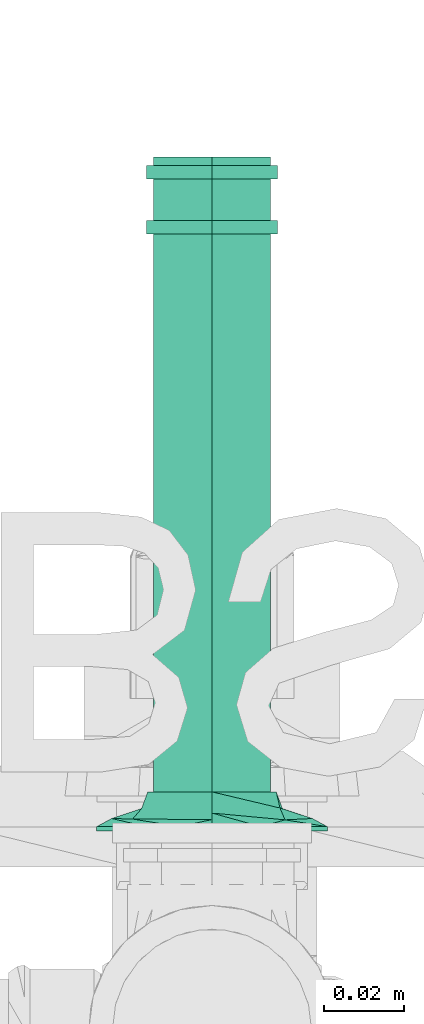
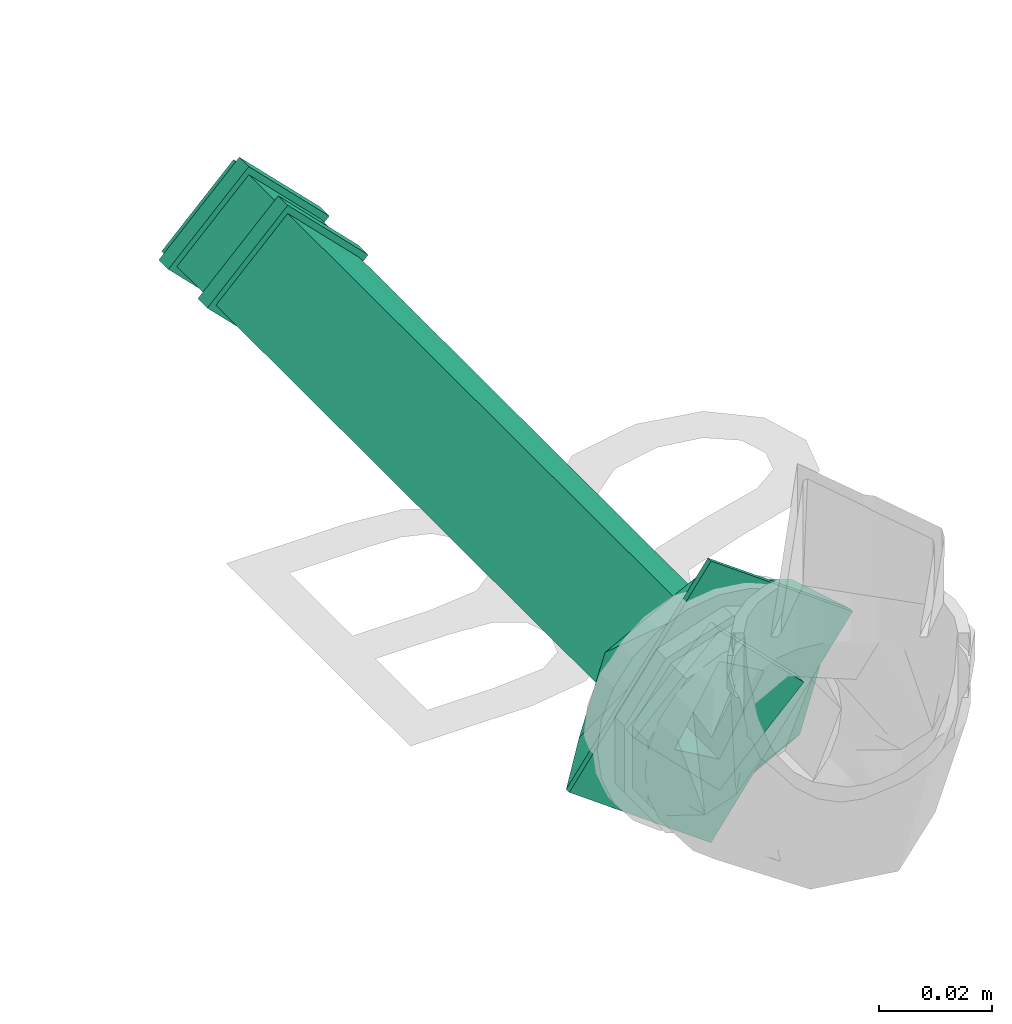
# One storey, part 204 of 589: 1 flow fitting.
"""IFC2X3 building model written with IfcOpenShell, lengths in millimetres."""

from ifc_helpers import new_model, entity, si_unit, converted_unit, derived_unit, direction, frame, origin, place, context, subcontext, project, spatial, faceted_brep, source, transform, mapped, material, type_object, type_shapes, element, save


model = new_model("IFC2X3")

# Units and contexts
model_context = context("Model", 3, precision=0.01, world=origin(), true_north=direction((6.123031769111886e-17, 1.0)))
body_context = subcontext(model_context, "Body", "Model", "MODEL_VIEW")
ifc_project = project(units=[si_unit("LENGTHUNIT", "METRE", prefix="MILLI"), si_unit("AREAUNIT", "SQUARE_METRE"), si_unit("VOLUMEUNIT", "CUBIC_METRE"), converted_unit("PLANEANGLEUNIT", "DEGREE", entity("IfcRatioMeasure", 0.017453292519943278), si_unit("PLANEANGLEUNIT", "RADIAN"), dimensions=[0, 0, 0, 0, 0, 0, 0]), si_unit("MASSUNIT", "GRAM", prefix="KILO"), derived_unit("MASSDENSITYUNIT", [(si_unit("MASSUNIT", "GRAM", prefix="KILO"), 1), (si_unit("LENGTHUNIT", "METRE"), -3)]), derived_unit("IONCONCENTRATIONUNIT", [(si_unit("MASSUNIT", "GRAM", prefix="KILO"), 1), (si_unit("LENGTHUNIT", "METRE"), -3)]), derived_unit("MOMENTOFINERTIAUNIT", [(si_unit("LENGTHUNIT", "METRE"), 4)]), si_unit("TIMEUNIT", "SECOND"), si_unit("FREQUENCYUNIT", "HERTZ"), si_unit("THERMODYNAMICTEMPERATUREUNIT", "DEGREE_CELSIUS"), derived_unit("THERMALTRANSMITTANCEUNIT", [(si_unit("MASSUNIT", "GRAM", prefix="KILO"), 1), (si_unit("THERMODYNAMICTEMPERATUREUNIT", "KELVIN"), -1), (si_unit("TIMEUNIT", "SECOND"), -3)]), derived_unit("THERMALCONDUCTANCEUNIT", [(si_unit("MASSUNIT", "GRAM", prefix="KILO"), 1), (si_unit("THERMODYNAMICTEMPERATUREUNIT", "KELVIN"), -1), (si_unit("TIMEUNIT", "SECOND"), -3), (si_unit("LENGTHUNIT", "METRE"), 1)]), derived_unit("VOLUMETRICFLOWRATEUNIT", [(si_unit("LENGTHUNIT", "METRE"), 3), (si_unit("TIMEUNIT", "SECOND"), -1)]), derived_unit("MASSFLOWRATEUNIT", [(si_unit("MASSUNIT", "GRAM", prefix="KILO"), 1), (si_unit("TIMEUNIT", "SECOND"), -1)]), derived_unit("ROTATIONALFREQUENCYUNIT", [(si_unit("TIMEUNIT", "SECOND"), -1)]), si_unit("ELECTRICCURRENTUNIT", "AMPERE"), si_unit("ELECTRICVOLTAGEUNIT", "VOLT"), si_unit("POWERUNIT", "WATT"), si_unit("FORCEUNIT", "NEWTON", prefix="KILO"), si_unit("ILLUMINANCEUNIT", "LUX"), si_unit("LUMINOUSFLUXUNIT", "LUMEN"), si_unit("LUMINOUSINTENSITYUNIT", "CANDELA"), derived_unit("USERDEFINED", [(si_unit("MASSUNIT", "GRAM", prefix="KILO"), -1), (si_unit("LENGTHUNIT", "METRE"), -2), (si_unit("TIMEUNIT", "SECOND"), 3), (si_unit("LUMINOUSFLUXUNIT", "LUMEN"), 1)]), derived_unit("USERDEFINED", [(si_unit("MASSUNIT", "GRAM", prefix="KILO"), 1), (si_unit("TIMEUNIT", "SECOND"), -3), (si_unit("LENGTHUNIT", "METRE"), 3), (si_unit("ELECTRICCURRENTUNIT", "AMPERE"), -2)]), derived_unit("SOUNDPOWERUNIT", [(si_unit("MASSUNIT", "GRAM", prefix="KILO"), 1), (si_unit("TIMEUNIT", "SECOND"), -3), (si_unit("LENGTHUNIT", "METRE"), 2)]), derived_unit("SOUNDPRESSUREUNIT", [(si_unit("MASSUNIT", "GRAM", prefix="KILO"), 1), (si_unit("LENGTHUNIT", "METRE"), -1), (si_unit("TIMEUNIT", "SECOND"), -2)]), derived_unit("LINEARVELOCITYUNIT", [(si_unit("LENGTHUNIT", "METRE"), 1), (si_unit("TIMEUNIT", "SECOND"), -1)]), si_unit("PRESSUREUNIT", "PASCAL"), derived_unit("USERDEFINED", [(si_unit("MASSUNIT", "GRAM", prefix="KILO"), 1), (si_unit("LENGTHUNIT", "METRE"), -2), (si_unit("TIMEUNIT", "SECOND"), -2)]), derived_unit("LINEARFORCEUNIT", [(si_unit("MASSUNIT", "GRAM", prefix="KILO"), 1), (si_unit("TIMEUNIT", "SECOND"), -2)]), derived_unit("PLANARFORCEUNIT", [(si_unit("MASSUNIT", "GRAM", prefix="KILO"), 1), (si_unit("LENGTHUNIT", "METRE"), -1), (si_unit("TIMEUNIT", "SECOND"), -2)]), derived_unit("SPECIFICHEATCAPACITYUNIT", [(si_unit("THERMODYNAMICTEMPERATUREUNIT", "KELVIN"), -1), (si_unit("LENGTHUNIT", "METRE"), 2), (si_unit("TIMEUNIT", "SECOND"), -2)]), derived_unit("HEATINGVALUEUNIT", [(si_unit("LENGTHUNIT", "METRE"), 2), (si_unit("TIMEUNIT", "SECOND"), -2)]), derived_unit("VAPORPERMEABILITYUNIT", [(si_unit("LENGTHUNIT", "METRE"), -1), (si_unit("TIMEUNIT", "SECOND"), 1)]), derived_unit("DYNAMICVISCOSITYUNIT", [(si_unit("MASSUNIT", "GRAM", prefix="KILO"), 1), (si_unit("TIMEUNIT", "SECOND"), -1), (si_unit("LENGTHUNIT", "METRE"), -1)]), derived_unit("THERMALEXPANSIONCOEFFICIENTUNIT", [(si_unit("THERMODYNAMICTEMPERATUREUNIT", "KELVIN"), -1)]), derived_unit("MODULUSOFELASTICITYUNIT", [(si_unit("MASSUNIT", "GRAM", prefix="KILO"), 1), (si_unit("LENGTHUNIT", "METRE"), -1), (si_unit("TIMEUNIT", "SECOND"), -2)]), derived_unit("ISOTHERMALMOISTURECAPACITYUNIT", [(si_unit("LENGTHUNIT", "METRE"), 3), (si_unit("MASSUNIT", "GRAM", prefix="KILO"), -1)]), derived_unit("MOISTUREDIFFUSIVITYUNIT", [(si_unit("TIMEUNIT", "SECOND"), -1), (si_unit("LENGTHUNIT", "METRE"), 2)])], contexts=[model_context])

# Site, building, storey
site_placement = place(None, origin())
site = spatial("IfcSite", under=ifc_project, at=site_placement, Name="Default", CompositionType="ELEMENT")
building_placement = place(site_placement, origin())
building = spatial("IfcBuilding", under=site, at=building_placement, CompositionType="ELEMENT")
storey_placement = place(building_placement, frame((0.0, 0.0, 100.0)))
storey = spatial("IfcBuildingStorey", under=building, at=storey_placement, Name="TÉRREO", CompositionType="ELEMENT", Elevation=100.0)

# Flow fitting
ifc_material = material(Name="Cromada")
pipe_fitting_type = type_object("IfcPipeFittingType", Name="Tubo de Ligação Inox com anel para vaso sanitário 25cm:Tubo de Ligação Inox com anel para vaso sanitário 25cm", PredefinedType="NOTDEFINED", material=ifc_material)
shared_shape = source(origin(), body_context, "Body", "Brep", [
    faceted_brep([(169.50429906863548, 32.118882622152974, 13.280359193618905), (169.50429906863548, 40.79117842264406, 21.95265499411), (169.50429906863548, 49.46347422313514, 30.624950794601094), (172.4480370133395, 49.46347422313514, 30.624950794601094), (172.4480370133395, 37.891441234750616, 19.052917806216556), (172.4480370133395, 32.118882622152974, 13.280359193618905), (169.50429906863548, 23.446586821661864, 21.95265499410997), (172.4480370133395, 23.446586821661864, 21.95265499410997), (172.4480370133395, 14.774291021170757, 30.624950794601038), (169.50429906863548, 14.774291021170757, 30.624950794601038), (169.50429906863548, 32.11888262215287, 47.96954239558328), (169.50429906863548, 23.44658682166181, 39.297246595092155), (172.4480370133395, 26.346323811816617, 42.196983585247), (172.4480370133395, 32.11888262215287, 47.96954239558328), (169.50429906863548, 40.791178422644, 39.29724659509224), (172.4480370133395, 40.791178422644, 39.29724659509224), (169.50429906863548, 1.5952722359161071, 30.62495079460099), (169.50429906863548, 5.781758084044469, 27.583290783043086), (169.50429906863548, 4.910115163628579, 35.18744066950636), (169.50429906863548, 11.584253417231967, 23.367531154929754), (169.50429906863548, 16.578744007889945, 19.738821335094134), (169.50429906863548, 21.57323459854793, 16.11011151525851), (169.50429906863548, 26.567725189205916, 12.481401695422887), (169.50429906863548, 31.56221577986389, 8.852691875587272), (169.50429906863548, 36.55670637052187, 5.223982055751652), (169.50429906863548, 41.55119696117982, 1.5952722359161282), (169.50429906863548, 44.18760896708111, 5.2239820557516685), (169.50429906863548, 46.82402097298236, 8.852691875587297), (169.50429906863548, 49.46043297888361, 12.481401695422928), (169.50429906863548, 52.09684498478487, 16.110111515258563), (169.50429906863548, 56.012807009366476, 21.499970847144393), (169.50429906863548, 59.32765000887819, 26.062460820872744), (169.50429906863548, 62.642493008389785, 30.624950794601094), (169.50429906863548, 58.45600728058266, 33.666610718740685), (169.50429906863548, 52.65351182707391, 37.882370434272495), (169.50429906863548, 47.65902123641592, 41.511080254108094), (169.50429906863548, 42.66453064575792, 45.139790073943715), (169.50429906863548, 37.67004005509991, 48.76849989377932), (169.50429906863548, 32.67554946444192, 52.39720971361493), (169.50429906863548, 27.681058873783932, 56.025919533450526), (169.50429906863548, 22.686568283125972, 59.654629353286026), (169.50429906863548, 20.0501562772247, 56.025919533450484), (169.50429906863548, 17.41374427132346, 52.39720971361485), (169.50429906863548, 14.777332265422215, 48.76849989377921), (169.50429906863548, 12.140920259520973, 45.139790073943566), (169.50429906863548, 8.224958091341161, 39.749930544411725), (19.27578185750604, 46.84025664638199, 30.624950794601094), (159.6299658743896, 46.84025664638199, 30.624950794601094), (159.6299658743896, 41.249188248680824, 25.03388239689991), (159.6299658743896, 32.118882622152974, 15.903576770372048), (19.27578185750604, 32.118882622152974, 15.903576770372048), (19.27578185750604, 39.479569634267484, 23.26426378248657), (2.0682862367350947, 46.8402566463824, 30.624950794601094), (2.0682862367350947, 39.47956963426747, 23.26426378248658), (2.0682862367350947, 32.11888262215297, 15.903576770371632), (0.0, 32.11888262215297, 15.903576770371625), (0.0, 39.47956963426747, 23.26426378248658), (0.0, 46.840256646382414, 30.624950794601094), (15.901727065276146, 46.84025664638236, 30.624950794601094), (15.901727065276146, 39.47956963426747, 23.26426378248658), (15.901727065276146, 32.11888262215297, 15.903576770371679), (5.4423410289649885, 32.11888262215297, 15.903576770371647), (5.4423410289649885, 39.47956963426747, 23.26426378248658), (5.4423410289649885, 46.840256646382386, 30.624950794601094), (19.27578185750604, 24.758195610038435, 23.264263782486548), (159.6299658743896, 24.758195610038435, 23.264263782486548), (159.6299658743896, 17.3975085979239, 30.624950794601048), (19.27578185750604, 17.3975085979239, 30.624950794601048), (2.0682862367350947, 22.728055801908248, 25.29440359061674), (2.0682862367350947, 17.39750859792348, 30.624950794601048), (0.0, 17.39750859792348, 30.624950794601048), (0.0, 24.75819561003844, 23.26426378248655), (15.901727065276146, 22.728055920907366, 25.294403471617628), (15.901727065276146, 17.397508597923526, 30.624950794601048), (5.4423410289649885, 17.3975085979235, 30.624950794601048), (5.4423410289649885, 24.75819561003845, 23.26426378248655), (19.275781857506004, 24.758195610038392, 37.985637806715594), (159.6299658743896, 22.98857663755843, 36.21601883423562), (159.6299658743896, 32.118882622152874, 45.34632481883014), (19.27578185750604, 32.118882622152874, 45.34632481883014), (2.0682862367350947, 24.758195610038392, 37.98563780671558), (2.0682862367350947, 32.118882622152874, 45.34632481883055), (0.0, 32.118882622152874, 45.34632481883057), (0.0, 24.7581956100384, 37.98563780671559), (15.901727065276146, 24.7581956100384, 37.98563780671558), (15.901727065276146, 32.118882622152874, 45.3463248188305), (5.4423410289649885, 32.118882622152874, 45.34632481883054), (5.4423410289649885, 24.758195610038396, 37.98563780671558), (19.27578185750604, 39.47956963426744, 37.98563780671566), (159.6299658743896, 39.47956963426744, 37.98563780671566), (2.0682862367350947, 41.50970944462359, 35.95549799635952), (0.0, 39.47956963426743, 37.98563780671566), (15.901727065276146, 41.509709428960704, 35.955498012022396), (5.4423410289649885, 39.47956963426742, 37.98563780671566), (0.0, 21.519458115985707, 30.624950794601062), (0.0, 37.41859487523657, 21.44557990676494), (0.0, 26.819170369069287, 39.80432168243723), (0.0, 42.718307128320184, 30.624950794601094), (172.4480370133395, 37.418594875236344, 21.44557990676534), (172.4480370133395, 42.71830712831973, 30.624950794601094), (172.4480370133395, 21.51945811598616, 30.624950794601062), (172.4480370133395, 26.819170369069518, 39.80432168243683), (5.4423410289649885, 15.622913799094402, 30.624950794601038), (5.4423410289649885, 26.90830271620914, 19.33956187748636), (5.4423410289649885, 32.118882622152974, 14.12898197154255), (5.4423410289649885, 23.870898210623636, 38.872935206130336), (5.4423410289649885, 32.11888262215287, 47.12091961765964), (5.4423410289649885, 40.366867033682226, 22.376966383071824), (5.4423410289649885, 48.614851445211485, 30.624950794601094), (5.4423410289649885, 37.3294625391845, 41.910339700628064), (2.0682862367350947, 32.118882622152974, 14.128981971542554), (2.0682862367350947, 40.366867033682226, 22.376966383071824), (2.0682862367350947, 48.614851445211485, 30.624950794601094), (19.27578185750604, 48.614851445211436, 30.624950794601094), (19.27578185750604, 40.3668670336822, 22.376966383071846), (19.27578185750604, 32.118882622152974, 14.128981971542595), (15.901727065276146, 32.11888262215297, 14.1289819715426), (15.901727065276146, 40.3668670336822, 22.376966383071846), (15.901727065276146, 48.614851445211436, 30.624950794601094), (2.0682862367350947, 15.622913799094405, 30.624950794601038), (2.0682862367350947, 23.87089821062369, 22.376966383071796), (19.27578185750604, 26.908302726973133, 19.339561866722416), (19.27578185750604, 15.622913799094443, 30.62495079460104), (15.901727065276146, 15.622913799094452, 30.624950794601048), (15.901727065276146, 23.87089821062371, 22.37696638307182), (2.0682862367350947, 32.11888262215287, 47.12091961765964), (2.0682862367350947, 23.87089821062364, 38.872935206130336), (19.275781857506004, 23.870898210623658, 38.87293520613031), (19.27578185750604, 32.11888262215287, 47.12091961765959), (15.901727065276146, 32.11888262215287, 47.12091961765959), (15.901727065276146, 23.870898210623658, 38.87293520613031), (2.0682862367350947, 40.36686703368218, 38.872935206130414), (19.27578185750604, 37.329462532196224, 41.91033970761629), (15.901727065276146, 40.366867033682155, 38.87293520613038), (168.38578825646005, 41.55119696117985, 1.595272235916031), (168.38578825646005, 44.18760896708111, 5.22398205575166), (168.38578825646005, 46.82402097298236, 8.852691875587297), (168.38578825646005, 49.46043297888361, 12.481401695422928), (168.38578825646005, 52.09684498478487, 16.110111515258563), (168.38578825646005, 53.711986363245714, 18.333162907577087), (168.38578825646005, 54.73325699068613, 19.738821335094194), (168.38578825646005, 57.36966899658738, 23.367531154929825), (168.38578825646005, 59.32765000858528, 26.062460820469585), (168.38578825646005, 62.64249300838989, 30.624950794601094), (168.38578825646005, 1.5952722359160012, 30.62495079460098), (168.38578825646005, 5.781758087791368, 27.583290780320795), (168.38578825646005, 9.968243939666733, 24.5416307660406), (168.38578825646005, 12.874069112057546, 22.430425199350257), (168.38578825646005, 14.15472979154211, 21.499970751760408), (168.38578825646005, 18.34121564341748, 18.458310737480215), (168.38578825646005, 24.143710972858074, 14.24255111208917), (168.38578825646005, 29.946206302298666, 10.02679148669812), (168.38578825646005, 35.74870163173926, 5.81103186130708), (168.38578825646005, 22.686568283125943, 59.654629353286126), (168.38578825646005, 20.050156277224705, 56.02591953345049), (168.38578825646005, 17.413744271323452, 52.397209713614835), (168.38578825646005, 14.777332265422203, 48.76849989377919), (168.38578825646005, 12.140920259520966, 45.13979007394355), (168.38578825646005, 10.525778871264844, 42.91673866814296), (168.38578825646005, 9.504508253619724, 41.51108025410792), (168.38578825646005, 6.86809624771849, 37.88237043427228), (168.38578825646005, 4.910115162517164, 35.18744066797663), (168.38578825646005, 58.45600728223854, 33.66661071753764), (168.38578825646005, 54.2695215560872, 36.708270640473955), (168.38578825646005, 51.36369660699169, 38.819476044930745), (168.38578825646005, 50.08303582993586, 39.749930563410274), (168.38578825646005, 45.89655010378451, 42.79159048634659), (168.38578825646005, 40.09405464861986, 47.00735020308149), (168.38578825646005, 34.29155919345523, 51.22310991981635), (168.38578825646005, 28.489063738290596, 55.43886963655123), (166.65864206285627, 50.44475613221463, 12.263416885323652), (159.6299658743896, 15.96921284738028, 30.62495079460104), (163.8332882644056, 20.75825967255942, 12.912536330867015), (164.9550277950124, 9.359195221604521, 30.62495079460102), (166.32560403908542, 33.03016188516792, 5.39284694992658), (159.6299658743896, 48.26855239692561, 30.624950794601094), (164.9550277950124, 54.878570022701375, 30.624950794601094), (163.6875401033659, 44.02352865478, 13.52475711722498), (159.6299658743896, 32.118882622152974, 14.475281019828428), (166.58567026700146, 58.56876719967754, 30.62495079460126), (166.45278398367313, 16.238491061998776, 10.662693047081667), (166.58567029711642, 5.668997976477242, 30.62495079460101), (166.65864196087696, 13.793009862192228, 48.98648514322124), (166.32560414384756, 31.20760459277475, 55.857054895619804), (163.83328832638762, 43.47950586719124, 48.33736517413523), (163.68754020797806, 20.214236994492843, 47.725144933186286), (159.6299658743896, 32.11888262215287, 46.77462056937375), (166.45278399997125, 47.99927477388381, 50.5872081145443)], [[[0, 1, 2, 3, 4, 5]], [[6, 0, 5, 7, 8, 9]], [[10, 11, 9, 8, 12, 13]], [[14, 10, 13, 15, 3, 2]], [[16, 0, 6]], [[0, 16, 17]], [[16, 6, 9]], [[9, 18, 16]], [[0, 17, 19]], [[0, 19, 20]], [[0, 20, 21]], [[0, 21, 22]], [[0, 22, 23]], [[0, 23, 24]], [[0, 24, 25]], [[25, 1, 0]], [[25, 2, 1]], [[2, 25, 26]], [[2, 26, 27]], [[2, 27, 28]], [[2, 28, 29]], [[2, 29, 30]], [[2, 30, 31]], [[2, 31, 32]], [[32, 14, 2]], [[32, 10, 14]], [[10, 32, 33]], [[10, 33, 34]], [[10, 34, 35]], [[10, 35, 36]], [[10, 36, 37]], [[10, 37, 38]], [[10, 38, 39]], [[10, 39, 40]], [[9, 40, 41]], [[40, 9, 11]], [[40, 11, 10]], [[9, 41, 42]], [[9, 42, 43]], [[9, 43, 44]], [[9, 44, 45]], [[9, 45, 18]], [[46, 47, 48, 49, 50, 51]], [[52, 53, 54, 55, 56, 57]], [[58, 59, 60, 61, 62, 63]], [[64, 50, 49, 65, 66, 67]], [[54, 68, 69, 70, 71, 55]], [[60, 72, 73, 74, 75, 61]], [[76, 67, 66, 77, 78, 79]], [[69, 80, 81, 82, 83, 70]], [[73, 84, 85, 86, 87, 74]], [[88, 79, 78, 89, 47, 46]], [[81, 90, 52, 57, 91, 82]], [[85, 92, 58, 63, 93, 86]], [[94, 55, 71]], [[55, 94, 95]], [[94, 71, 70]], [[70, 96, 94]], [[95, 56, 55]], [[95, 57, 56]], [[95, 97, 57]], [[82, 97, 96]], [[97, 82, 91]], [[97, 91, 57]], [[96, 70, 83]], [[96, 83, 82]], [[98, 99, 97, 95]], [[94, 100, 98, 95]], [[101, 100, 94, 96]], [[97, 99, 101, 96]], [[100, 8, 7]], [[100, 101, 8]], [[100, 7, 5]], [[98, 100, 5]], [[101, 12, 8]], [[101, 13, 12]], [[101, 99, 13]], [[3, 99, 98]], [[99, 3, 15]], [[99, 15, 13]], [[98, 5, 4]], [[98, 4, 3]], [[74, 102, 103]], [[74, 103, 104]], [[104, 75, 74]], [[74, 105, 102]], [[74, 106, 105]], [[106, 74, 87]], [[106, 87, 86]], [[106, 86, 93]], [[106, 93, 63]], [[63, 104, 107]], [[104, 63, 62]], [[63, 107, 108]], [[63, 108, 109]], [[63, 109, 106]], [[104, 62, 61]], [[104, 61, 75]], [[108, 107, 104, 110, 111, 112]], [[113, 114, 115, 116, 117, 118]], [[110, 104, 103, 102, 119, 120]], [[116, 115, 121, 122, 123, 124]], [[102, 105, 106, 125, 126, 119]], [[122, 127, 128, 129, 130, 123]], [[125, 106, 109, 108, 112, 131]], [[129, 128, 132, 113, 118, 133]], [[69, 110, 120]], [[110, 69, 68]], [[69, 120, 119]], [[69, 119, 126]], [[69, 126, 125]], [[125, 80, 69]], [[110, 68, 54]], [[110, 54, 53]], [[110, 53, 52]], [[52, 125, 131]], [[125, 52, 90]], [[52, 111, 110]], [[52, 112, 111]], [[52, 131, 112]], [[125, 90, 81]], [[125, 81, 80]], [[27, 26, 25, 134, 135, 136, 137, 138, 139, 140, 141, 142, 143, 32, 31, 30, 29, 28]], [[19, 17, 16, 144, 145, 146, 147, 148, 149, 150, 151, 152, 134, 25, 24, 23, 22, 21, 20]], [[42, 41, 40, 153, 154, 155, 156, 157, 158, 159, 160, 161, 144, 16, 18, 45, 44, 43]], [[32, 143, 162, 163, 164, 165, 166, 167, 168, 169, 153, 40, 39, 38, 37, 36, 35, 34, 33]], [[170, 139, 138, 137, 136, 135, 134]], [[171, 172, 173]], [[174, 170, 134]], [[175, 176, 177]], [[177, 178, 175]], [[142, 141, 140, 139, 176, 179, 143]], [[174, 172, 177]], [[178, 177, 172]], [[174, 180, 172]], [[178, 172, 171]], [[174, 134, 152, 151, 150]], [[174, 150, 180]], [[170, 177, 176]], [[181, 180, 147]], [[177, 170, 174]], [[139, 170, 176]], [[181, 173, 180]], [[173, 172, 180]], [[180, 150, 149, 148, 147]], [[181, 147, 146, 145, 144]], [[182, 158, 157, 156, 155, 154, 153]], [[183, 184, 185]], [[183, 182, 153]], [[171, 173, 185]], [[185, 186, 171]], [[175, 184, 176]], [[183, 187, 184]], [[186, 185, 184]], [[179, 187, 164]], [[186, 184, 175]], [[183, 153, 169, 168, 167]], [[183, 167, 187]], [[182, 185, 173]], [[161, 160, 159, 158, 173, 181, 144]], [[185, 182, 183]], [[158, 182, 173]], [[179, 176, 187]], [[176, 184, 187]], [[187, 167, 166, 165, 164]], [[179, 164, 163, 162, 143]], [[178, 171, 66]], [[178, 66, 65]], [[178, 65, 49]], [[178, 49, 48]], [[178, 48, 47]], [[178, 47, 175]], [[186, 66, 171]], [[186, 175, 47]], [[186, 47, 89]], [[186, 77, 66]], [[186, 78, 77]], [[186, 89, 78]], [[67, 122, 121]], [[67, 121, 115]], [[115, 64, 67]], [[67, 127, 122]], [[67, 128, 127]], [[128, 67, 76]], [[128, 76, 79]], [[128, 79, 88]], [[128, 88, 46]], [[46, 115, 114]], [[115, 46, 51]], [[46, 114, 113]], [[46, 113, 132]], [[46, 132, 128]], [[115, 51, 50]], [[115, 50, 64]], [[73, 116, 124]], [[116, 73, 72]], [[73, 124, 123]], [[73, 123, 130]], [[73, 130, 129]], [[129, 84, 73]], [[116, 72, 60]], [[116, 60, 59]], [[116, 59, 58]], [[58, 129, 133]], [[129, 58, 92]], [[58, 117, 116]], [[58, 118, 117]], [[58, 133, 118]], [[129, 92, 85]], [[129, 85, 84]]]),
])
type_shapes(pipe_fitting_type, [shared_shape])
flow_fitting_placement = place(storey_placement, frame((10646.778977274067, -258.31051540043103, 347.8811173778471), z_axis=(-1.0, 0.0, 0.0), x_axis=(0.0, -1.0, 0.0)))
element("IfcFlowFitting", 1, at=flow_fitting_placement, inside=storey, type_object=pipe_fitting_type, material=ifc_material, Name="Tubo de Ligação Inox com anel para vaso sanitário 25cm:Tubo de Ligação Inox com anel para vaso sanitário 25cm", ObjectType="Tubo de Ligação Inox com anel para vaso sanitário 25cm:Tubo de Ligação Inox com anel para vaso sanitário 25cm", context=body_context, shape_type="MappedRepresentation", body=[
    mapped(shared_shape, transform((0.0, 0.0, 0.0), scale=1.0)),
])

save(model, "model.ifc")
